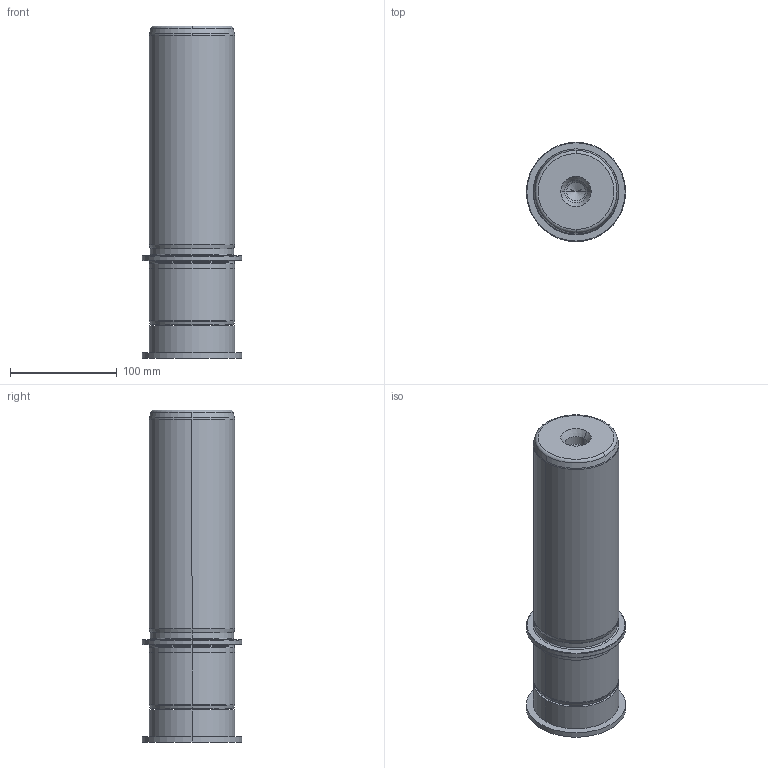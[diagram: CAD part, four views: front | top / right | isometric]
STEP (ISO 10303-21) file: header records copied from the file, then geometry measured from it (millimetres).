
FILE_DESCRIPTION((''),'2;1');
FILE_NAME('P22_080_220.stp','2009-02-03T10:14:59',(''),(''),'Mechanical Desktop 2009','Mechanical Desktop 2009',', , ');
FILE_SCHEMA(('CONFIG_CONTROL_DESIGN'));
Length unit declared in the file: millimetre
Products named in the file (2): Product; blmdl1
Assembly tree (1 placements, depth 2):
  Product
    blmdl1
Bounding box: 93 x 93 x 311 mm (x, y, z)
Volume: 1547306.3 mm3; surface area: 119347.6 mm2
Topology: 3 solids, 3 shells, 99 faces, 237 edges, 149 vertices
Faces by surface type: cylinder 32, cone 28, plane 19, torus 10, bspline 10
Entity records: 3419 total; most frequent: CARTESIAN_POINT 923, DIRECTION 570, ORIENTED_EDGE 466, AXIS2_PLACEMENT_3D 246, EDGE_CURVE 233, CIRCLE 155, VERTEX_POINT 149, EDGE_LOOP 110
